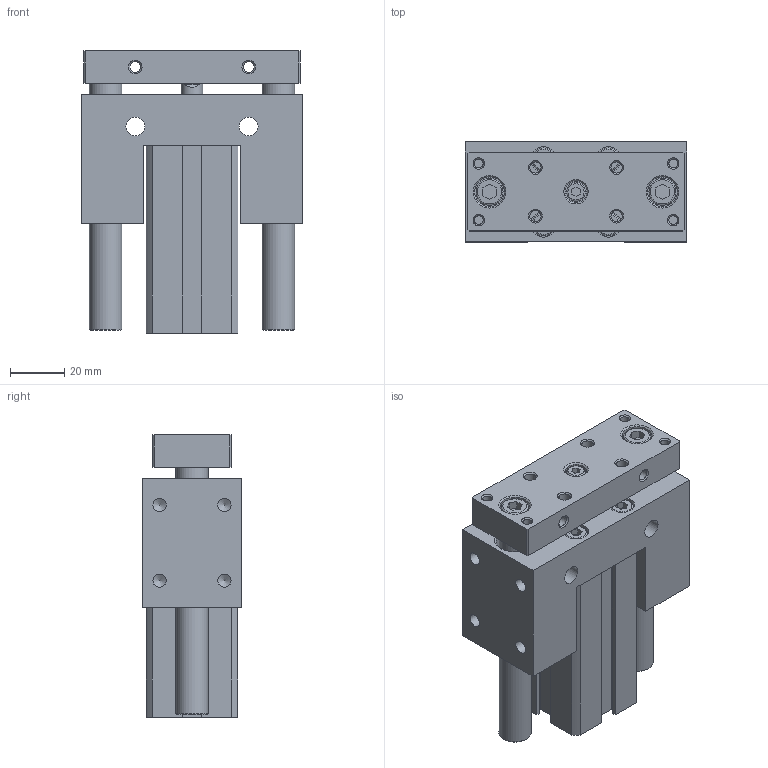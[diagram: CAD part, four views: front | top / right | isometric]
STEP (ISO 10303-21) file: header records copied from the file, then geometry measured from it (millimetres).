
FILE_DESCRIPTION((''),'2;1');
FILE_NAME('I:\3D電子目錄\氣缸\JCB\JCB\JCB20-S\JCB20x40-S.stp','2007-08-21T18:27:50',('Administrator'),(''),'Autodesk Inventor 11','Autodesk Inventor 11','');
FILE_SCHEMA(('AUTOMOTIVE_DESIGN { 1 0 10303 214 1 1 1 1 }'));
Length unit declared in the file: millimetre
Products named in the file (1): JCB20
Bounding box: 82 x 37 x 104.5 mm (x, y, z)
Volume: 197416.3 mm3; surface area: 63299.4 mm2
Topology: 5 solids, 5 shells, 293 faces, 643 edges, 415 vertices
Faces by surface type: plane 150, bspline 53, cylinder 45, cone 37, torus 8
Full cylindrical faces by diameter (mm): 1.5 x2, 4.3 x4, 4.917 x4, 7 x9, 8 x1, 8.5 x4, 9 x1, 10 x2, 12 x2, 13 x2, 14 x2, 22 x4, 23.2 x2
Entity records: 7875 total; most frequent: CARTESIAN_POINT 1985, DIRECTION 1184, ORIENTED_EDGE 992, EDGE_LOOP 504, EDGE_CURVE 496, AXIS2_PLACEMENT_3D 447, VERTEX_POINT 394, FACE_OUTER_BOUND 293
